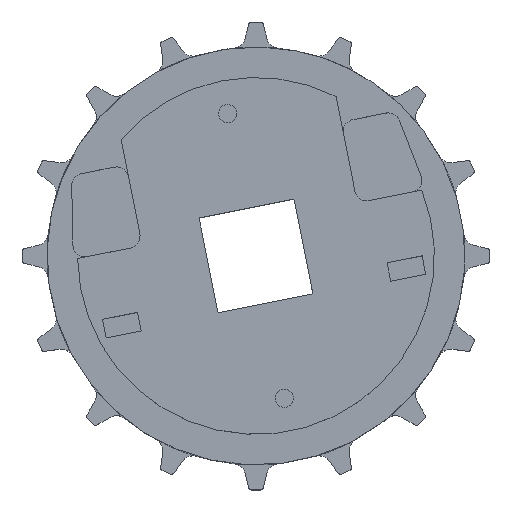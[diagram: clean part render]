
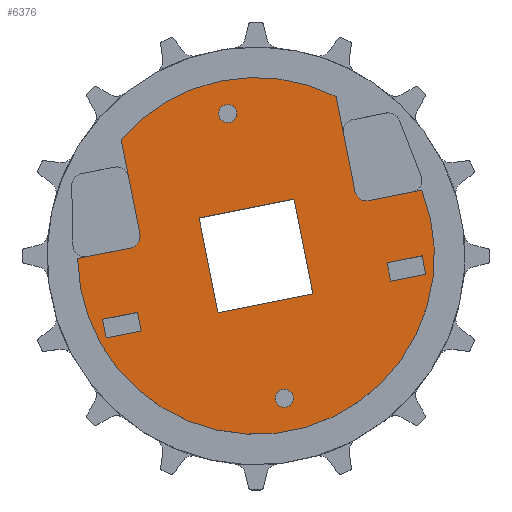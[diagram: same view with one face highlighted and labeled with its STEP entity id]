
A CAD part, top view. The second image highlights one B-rep face of the part: STEP entity #6376.
In plain terms, the highlighted planar face has unit normal (0, 0, 1).
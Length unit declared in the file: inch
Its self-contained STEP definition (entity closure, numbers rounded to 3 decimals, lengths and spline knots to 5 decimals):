
#2085=DIRECTION('',(-0.981,-0.195,0.));
#2086=VECTOR('',#2085,0.83395);
#2087=CARTESIAN_POINT('',(-1.94878,0.12216,0.74));
#2088=LINE('',#2087,#2086);
#2089=CARTESIAN_POINT('',(-1.98536,0.30606,0.74));
#2090=DIRECTION('',(0.,0.,-1.));
#2091=DIRECTION('',(0.981,0.195,0.));
#2092=AXIS2_PLACEMENT_3D('',#2089,#2090,#2091);
#2094=DIRECTION('',(0.195,-0.981,0.));
#2095=VECTOR('',#2094,1.49568);
#2096=CARTESIAN_POINT('',(-2.09325,1.80958,0.74));
#2097=LINE('',#2096,#2095);
#2098=CARTESIAN_POINT('',(0.,0.,0.74));
#2099=DIRECTION('',(0.,0.,1.));
#2100=DIRECTION('',(0.449,0.894,0.));
#2101=AXIS2_PLACEMENT_3D('',#2098,#2099,#2100);
#2103=DIRECTION('',(-0.195,0.981,0.));
#2104=VECTOR('',#2103,1.49568);
#2105=CARTESIAN_POINT('',(1.53321,1.00594,0.74));
#2106=LINE('',#2105,#2104);
#2107=CARTESIAN_POINT('',(1.71711,1.04252,0.74));
#2108=DIRECTION('',(0.,0.,-1.));
#2109=DIRECTION('',(0.195,-0.981,0.));
#2110=AXIS2_PLACEMENT_3D('',#2107,#2108,#2109);
#2112=DIRECTION('',(-0.981,-0.195,0.));
#2113=VECTOR('',#2112,0.83395);
#2114=CARTESIAN_POINT('',(2.57161,1.02132,0.74));
#2115=LINE('',#2114,#2113);
#2116=CARTESIAN_POINT('',(0.,0.,0.74));
#2117=DIRECTION('',(0.,0.,1.));
#2118=DIRECTION('',(-1.,-0.015,0.));
#2119=AXIS2_PLACEMENT_3D('',#2116,#2117,#2118);
#2121=CARTESIAN_POINT('',(-0.43895,2.20677,0.74));
#2122=DIRECTION('',(0.,0.,1.));
#2123=DIRECTION('',(0.981,0.195,0.));
#2124=AXIS2_PLACEMENT_3D('',#2121,#2122,#2123);
#2126=CARTESIAN_POINT('',(-0.43895,2.20677,0.74));
#2127=DIRECTION('',(0.,0.,1.));
#2128=DIRECTION('',(-0.981,-0.195,0.));
#2129=AXIS2_PLACEMENT_3D('',#2126,#2127,#2128);
#2131=DIRECTION('',(0.981,0.195,0.));
#2132=VECTOR('',#2131,0.554);
#2133=CARTESIAN_POINT('',(2.08994,-0.39359,0.74));
#2134=LINE('',#2133,#2132);
#2135=DIRECTION('',(-0.195,0.981,0.));
#2136=VECTOR('',#2135,0.29375);
#2137=CARTESIAN_POINT('',(2.6333,-0.28551,0.74));
#2138=LINE('',#2137,#2136);
#2139=DIRECTION('',(-0.981,-0.195,0.));
#2140=VECTOR('',#2139,0.554);
#2141=CARTESIAN_POINT('',(2.57599,0.0026,0.74));
#2142=LINE('',#2141,#2140);
#2143=DIRECTION('',(0.195,-0.981,0.));
#2144=VECTOR('',#2143,0.29375);
#2145=CARTESIAN_POINT('',(2.03263,-0.10548,0.74));
#2146=LINE('',#2145,#2144);
#2147=DIRECTION('',(0.981,0.195,0.));
#2148=VECTOR('',#2147,0.554);
#2149=CARTESIAN_POINT('',(-2.32359,-1.27149,0.74));
#2150=LINE('',#2149,#2148);
#2151=DIRECTION('',(-0.195,0.981,0.));
#2152=VECTOR('',#2151,0.29375);
#2153=CARTESIAN_POINT('',(-1.78024,-1.16341,0.74));
#2154=LINE('',#2153,#2152);
#2155=DIRECTION('',(-0.981,-0.195,0.));
#2156=VECTOR('',#2155,0.554);
#2157=CARTESIAN_POINT('',(-1.83754,-0.87531,0.74));
#2158=LINE('',#2157,#2156);
#2159=DIRECTION('',(0.195,-0.981,0.));
#2160=VECTOR('',#2159,0.29375);
#2161=CARTESIAN_POINT('',(-2.3809,-0.98339,0.74));
#2162=LINE('',#2161,#2160);
#2163=CARTESIAN_POINT('',(0.43895,-2.20677,0.74));
#2164=DIRECTION('',(0.,0.,1.));
#2165=DIRECTION('',(0.981,0.195,0.));
#2166=AXIS2_PLACEMENT_3D('',#2163,#2164,#2165);
#2168=CARTESIAN_POINT('',(0.43895,-2.20677,0.74));
#2169=DIRECTION('',(0.,0.,1.));
#2170=DIRECTION('',(-0.981,-0.195,0.));
#2171=AXIS2_PLACEMENT_3D('',#2168,#2169,#2170);
#2173=DIRECTION('',(0.981,0.195,0.));
#2174=VECTOR('',#2173,1.5);
#2175=CARTESIAN_POINT('',(-0.58927,-0.88191,0.74));
#2176=LINE('',#2175,#2174);
#2177=DIRECTION('',(-0.195,0.981,0.));
#2178=VECTOR('',#2177,1.5);
#2179=CARTESIAN_POINT('',(0.88191,-0.58927,0.74));
#2180=LINE('',#2179,#2178);
#2181=DIRECTION('',(-0.981,-0.195,0.));
#2182=VECTOR('',#2181,1.5);
#2183=CARTESIAN_POINT('',(0.58927,0.88191,0.74));
#2184=LINE('',#2183,#2182);
#2185=DIRECTION('',(0.195,-0.981,0.));
#2186=VECTOR('',#2185,1.5);
#2187=CARTESIAN_POINT('',(-0.88191,0.58927,0.74));
#2188=LINE('',#2187,#2186);
#3173=CARTESIAN_POINT('',(-0.58927,-0.88191,0.74));
#3175=VERTEX_POINT('',#3173);
#3177=CARTESIAN_POINT('',(0.88191,-0.58927,0.74));
#3179=VERTEX_POINT('',#3177);
#3181=CARTESIAN_POINT('',(0.58927,0.88191,0.74));
#3183=VERTEX_POINT('',#3181);
#3185=CARTESIAN_POINT('',(-0.88191,0.58927,0.74));
#3187=VERTEX_POINT('',#3185);
#3197=CARTESIAN_POINT('',(-2.7667,-0.04054,0.74));
#3198=CARTESIAN_POINT('',(2.57161,1.02132,0.74));
#3199=VERTEX_POINT('',#3197);
#3200=VERTEX_POINT('',#3198);
#3201=CARTESIAN_POINT('',(1.24142,2.47289,0.74));
#3202=CARTESIAN_POINT('',(-2.09325,1.80958,0.74));
#3203=VERTEX_POINT('',#3201);
#3204=VERTEX_POINT('',#3202);
#3229=CARTESIAN_POINT('',(-1.80146,0.34264,0.74));
#3230=VERTEX_POINT('',#3229);
#3231=CARTESIAN_POINT('',(-1.94878,0.12216,0.74));
#3232=VERTEX_POINT('',#3231);
#3233=CARTESIAN_POINT('',(1.75369,0.85863,0.74));
#3234=VERTEX_POINT('',#3233);
#3235=CARTESIAN_POINT('',(1.53321,1.00594,0.74));
#3236=VERTEX_POINT('',#3235);
#3357=CARTESIAN_POINT('',(2.08994,-0.39359,0.74));
#3358=CARTESIAN_POINT('',(2.6333,-0.28551,0.74));
#3359=VERTEX_POINT('',#3357);
#3360=VERTEX_POINT('',#3358);
#3361=CARTESIAN_POINT('',(2.57599,0.0026,0.74));
#3362=VERTEX_POINT('',#3361);
#3363=CARTESIAN_POINT('',(2.03263,-0.10548,0.74));
#3364=VERTEX_POINT('',#3363);
#3373=CARTESIAN_POINT('',(-2.32359,-1.27149,0.74));
#3374=CARTESIAN_POINT('',(-1.78024,-1.16341,0.74));
#3375=VERTEX_POINT('',#3373);
#3376=VERTEX_POINT('',#3374);
#3377=CARTESIAN_POINT('',(-1.83754,-0.87531,0.74));
#3378=VERTEX_POINT('',#3377);
#3379=CARTESIAN_POINT('',(-2.3809,-0.98339,0.74));
#3380=VERTEX_POINT('',#3379);
#3449=CARTESIAN_POINT('',(0.57675,-2.17936,0.74));
#3450=CARTESIAN_POINT('',(0.30115,-2.23418,0.74));
#3451=VERTEX_POINT('',#3449);
#3452=VERTEX_POINT('',#3450);
#3457=CARTESIAN_POINT('',(-0.30115,2.23418,0.74));
#3458=CARTESIAN_POINT('',(-0.57675,2.17936,0.74));
#3459=VERTEX_POINT('',#3457);
#3460=VERTEX_POINT('',#3458);
#6317=CARTESIAN_POINT('',(0.,0.,0.74));
#6318=DIRECTION('',(0.,0.,1.));
#6319=DIRECTION('',(0.981,0.195,0.));
#6320=AXIS2_PLACEMENT_3D('',#6317,#6318,#6319);
#6321=PLANE('',#6320);
#6322=ORIENTED_EDGE('',*,*,#6216,.F.);
#6323=ORIENTED_EDGE('',*,*,#6186,.F.);
#6324=ORIENTED_EDGE('',*,*,#6153,.F.);
#6326=ORIENTED_EDGE('',*,*,#6325,.F.);
#6327=ORIENTED_EDGE('',*,*,#6020,.F.);
#6328=ORIENTED_EDGE('',*,*,#5989,.F.);
#6329=ORIENTED_EDGE('',*,*,#5943,.F.);
#6331=ORIENTED_EDGE('',*,*,#6330,.F.);
#6332=EDGE_LOOP('',(#6322,#6323,#6324,#6326,#6327,#6328,#6329,#6331));
#6333=FACE_OUTER_BOUND('',#6332,.F.);
#6335=ORIENTED_EDGE('',*,*,#6334,.T.);
#6337=ORIENTED_EDGE('',*,*,#6336,.T.);
#6338=EDGE_LOOP('',(#6335,#6337));
#6339=FACE_BOUND('',#6338,.F.);
#6341=ORIENTED_EDGE('',*,*,#6340,.T.);
#6343=ORIENTED_EDGE('',*,*,#6342,.T.);
#6345=ORIENTED_EDGE('',*,*,#6344,.T.);
#6347=ORIENTED_EDGE('',*,*,#6346,.T.);
#6348=EDGE_LOOP('',(#6341,#6343,#6345,#6347));
#6349=FACE_BOUND('',#6348,.F.);
#6351=ORIENTED_EDGE('',*,*,#6350,.T.);
#6353=ORIENTED_EDGE('',*,*,#6352,.T.);
#6355=ORIENTED_EDGE('',*,*,#6354,.T.);
#6357=ORIENTED_EDGE('',*,*,#6356,.T.);
#6358=EDGE_LOOP('',(#6351,#6353,#6355,#6357));
#6359=FACE_BOUND('',#6358,.F.);
#6361=ORIENTED_EDGE('',*,*,#6360,.T.);
#6363=ORIENTED_EDGE('',*,*,#6362,.T.);
#6364=EDGE_LOOP('',(#6361,#6363));
#6365=FACE_BOUND('',#6364,.F.);
#6367=ORIENTED_EDGE('',*,*,#6366,.T.);
#6369=ORIENTED_EDGE('',*,*,#6368,.T.);
#6371=ORIENTED_EDGE('',*,*,#6370,.T.);
#6373=ORIENTED_EDGE('',*,*,#6372,.T.);
#6374=EDGE_LOOP('',(#6367,#6369,#6371,#6373));
#6375=FACE_BOUND('',#6374,.F.);
#6376=ADVANCED_FACE('',(#6333,#6339,#6349,#6359,#6365,#6375),#6321,.T.);
#2093=CIRCLE('',#2092,0.1875);
#2102=CIRCLE('',#2101,2.767);
#2111=CIRCLE('',#2110,0.1875);
#2120=CIRCLE('',#2119,2.767);
#2125=CIRCLE('',#2124,0.1405);
#2130=CIRCLE('',#2129,0.1405);
#2167=CIRCLE('',#2166,0.1405);
#2172=CIRCLE('',#2171,0.1405);
#5943=EDGE_CURVE('',#3200,#3234,#2115,.T.);
#5989=EDGE_CURVE('',#3234,#3236,#2111,.T.);
#6020=EDGE_CURVE('',#3236,#3203,#2106,.T.);
#6153=EDGE_CURVE('',#3204,#3230,#2097,.T.);
#6186=EDGE_CURVE('',#3230,#3232,#2093,.T.);
#6216=EDGE_CURVE('',#3232,#3199,#2088,.T.);
#6325=EDGE_CURVE('',#3203,#3204,#2102,.T.);
#6330=EDGE_CURVE('',#3199,#3200,#2120,.T.);
#6334=EDGE_CURVE('',#3459,#3460,#2125,.T.);
#6336=EDGE_CURVE('',#3460,#3459,#2130,.T.);
#6340=EDGE_CURVE('',#3359,#3360,#2134,.T.);
#6342=EDGE_CURVE('',#3360,#3362,#2138,.T.);
#6344=EDGE_CURVE('',#3362,#3364,#2142,.T.);
#6346=EDGE_CURVE('',#3364,#3359,#2146,.T.);
#6350=EDGE_CURVE('',#3375,#3376,#2150,.T.);
#6352=EDGE_CURVE('',#3376,#3378,#2154,.T.);
#6354=EDGE_CURVE('',#3378,#3380,#2158,.T.);
#6356=EDGE_CURVE('',#3380,#3375,#2162,.T.);
#6360=EDGE_CURVE('',#3451,#3452,#2167,.T.);
#6362=EDGE_CURVE('',#3452,#3451,#2172,.T.);
#6366=EDGE_CURVE('',#3175,#3179,#2176,.T.);
#6368=EDGE_CURVE('',#3179,#3183,#2180,.T.);
#6370=EDGE_CURVE('',#3183,#3187,#2184,.T.);
#6372=EDGE_CURVE('',#3187,#3175,#2188,.T.);
